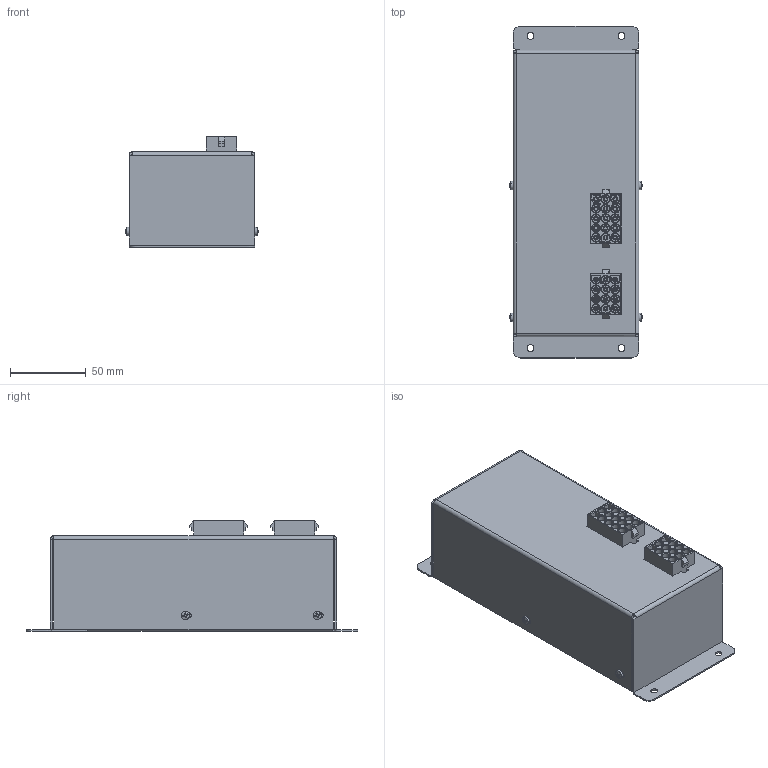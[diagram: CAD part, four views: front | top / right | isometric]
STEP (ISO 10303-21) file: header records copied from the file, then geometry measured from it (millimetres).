
FILE_DESCRIPTION (( 'STEP AP203' ), '1' );
FILE_NAME ('分适配器（母联）.STEP', '2025-03-12T02:16:01', ( '' ), ( '' ), 'SwSTEP 2.0', 'SolidWorks 2018', '' );
FILE_SCHEMA (( 'CONFIG_CONTROL_DESIGN' ));
Length unit declared in the file: millimetre
Products named in the file (8): HF115F-A[3]樟萇ん; GBT 823 M3×8_GB_CROSS_SCREWS_TYPE3 M3X8-8-N; 蹟譫翐; 8LD.024.1280; 15渀脣釱; 煦巠饜んㄗ譫薊ㄘ; 13渀脣釱; 8LD.310.1058
Assembly tree (14 placements, depth 2):
  煦巠饜んㄗ譫薊ㄘ
    8LD.310.1058
    8LD.024.1280
    13渀脣釱
    15渀脣釱
    HF115F-A[3]樟萇ん  x2
    蹟譫翐  x4
    GBT 823 M3×8_GB_CROSS_SCREWS_TYPE3 M3X8-8-N  x4
Bounding box: 87.25 x 219 x 73.02 mm (x, y, z)
Volume: 118608.3 mm3; surface area: 164873.4 mm2
Topology: 14 solids, 24 shells, 2304 faces, 5707 edges, 3612 vertices
Faces by surface type: plane 1310, cylinder 637, cone 209, torus 66, bspline 50, sphere 32
Entity records: 59299 total; most frequent: CARTESIAN_POINT 11322, DIRECTION 10009, ORIENTED_EDGE 9534, EDGE_CURVE 4767, AXIS2_PLACEMENT_3D 3382, LINE 3245, VECTOR 3245, VERTEX_POINT 3029
